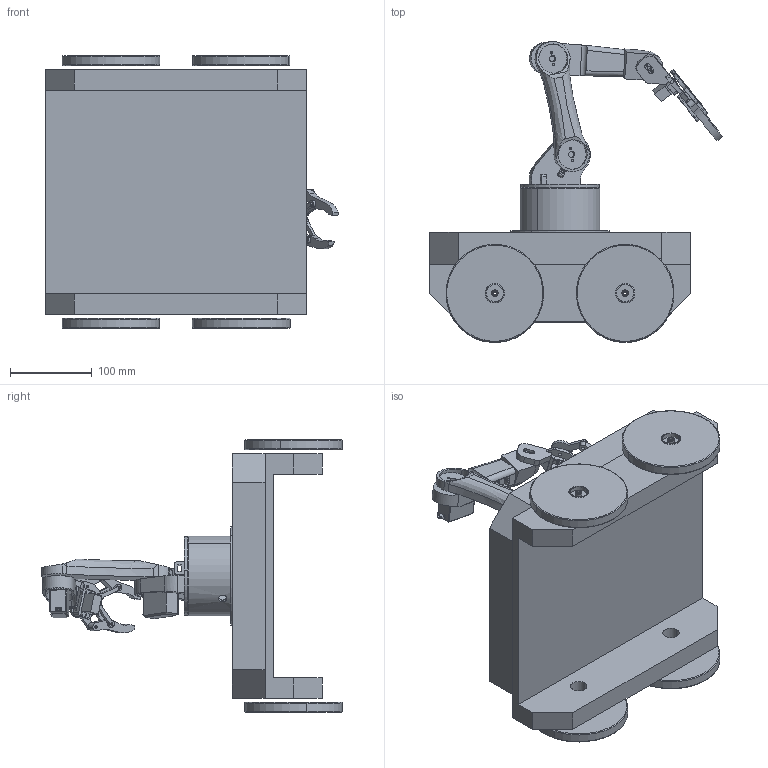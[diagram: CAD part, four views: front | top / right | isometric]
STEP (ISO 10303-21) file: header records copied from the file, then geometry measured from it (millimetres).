
FILE_DESCRIPTION((''),'2;1');
FILE_NAME('ASM0001_ASM','2024-10-14T10:32:53',('sal.vivek.v'),(''),'CREO PARAMETRIC BY PTC INC, 2023254','CREO PARAMETRIC BY PTC INC, 2023254','');
FILE_SCHEMA(('CONFIG_CONTROL_DESIGN'));
Length unit declared in the file: millimetre
Products named in the file (31): PRT0001; GEAR1; GEAR2; GRIP_LINK_1; GRIPPER_BASE; GRIPPER_1; CUT-EXTRUDE1; CUT-EXTRUDE2; BOSS-EXTRUDE5; BOSS-EXTRUDE7_1_; BOSS-EXTRUDE7_2_; BOSS-EXTRUDE7_3_; SERVO_MOTOR_MICRO__9G_ASM; GRIPPER_ASSEMBLY_ASM; BASE; BOSS-EXTRUDE12_1_; BOSS-EXTRUDE12_2_; BOSS-EXTRUDE12_3_; NONE; SERVO_MOTOR_MG996R_ASM; WAIST; FILLET7; CUT-EXTRUDE7; ARM_01_ASM; ARM_02_V3; ARM_03; ROBOTIC_ARM_3D_MODEL_1_ASM; ROBOTIC_ARM_3D_MODEL_ASM; PRT0002; WHEEL; ASM0001_ASM
Assembly tree (41 placements, depth 6):
  ASM0001_ASM
    PRT0001
    ROBOTIC_ARM_3D_MODEL_ASM
      ROBOTIC_ARM_3D_MODEL_1_ASM
        GRIPPER_ASSEMBLY_ASM
          GEAR1
          GEAR2
          GRIP_LINK_1  x4
          GRIPPER_BASE
          GRIPPER_1  x2
          SERVO_MOTOR_MICRO__9G_ASM
            CUT-EXTRUDE1
            CUT-EXTRUDE2
            BOSS-EXTRUDE5
            BOSS-EXTRUDE7_1_
            BOSS-EXTRUDE7_2_
            BOSS-EXTRUDE7_3_
        BASE
        SERVO_MOTOR_MG996R_ASM  x3
          BOSS-EXTRUDE12_1_
          BOSS-EXTRUDE12_2_
          BOSS-EXTRUDE12_3_
          NONE
        WAIST
        ARM_01_ASM
          FILLET7
          CUT-EXTRUDE7
        SERVO_MOTOR_MICRO__9G_ASM  x2
          CUT-EXTRUDE1
          CUT-EXTRUDE2
          BOSS-EXTRUDE5
          BOSS-EXTRUDE7_1_
          BOSS-EXTRUDE7_2_
          BOSS-EXTRUDE7_3_
        ARM_02_V3
        ARM_03
    PRT0002
    WHEEL  x4
Bounding box: 359.17 x 368.94 x 334 mm (x, y, z)
Volume: 6076816 mm3; surface area: 799925.9 mm2
Topology: 51 solids, 54 shells, 1415 faces, 3506 edges, 2262 vertices
Faces by surface type: cylinder 725, plane 561, torus 76, bspline 32, extrusion 13, cone 8
Entity records: 27271 total; most frequent: CARTESIAN_POINT 6184, DIRECTION 4592, ORIENTED_EDGE 4100, EDGE_CURVE 2050, AXIS2_PLACEMENT_3D 1768, VERTEX_POINT 1342, VECTOR 1056, LINE 1045
